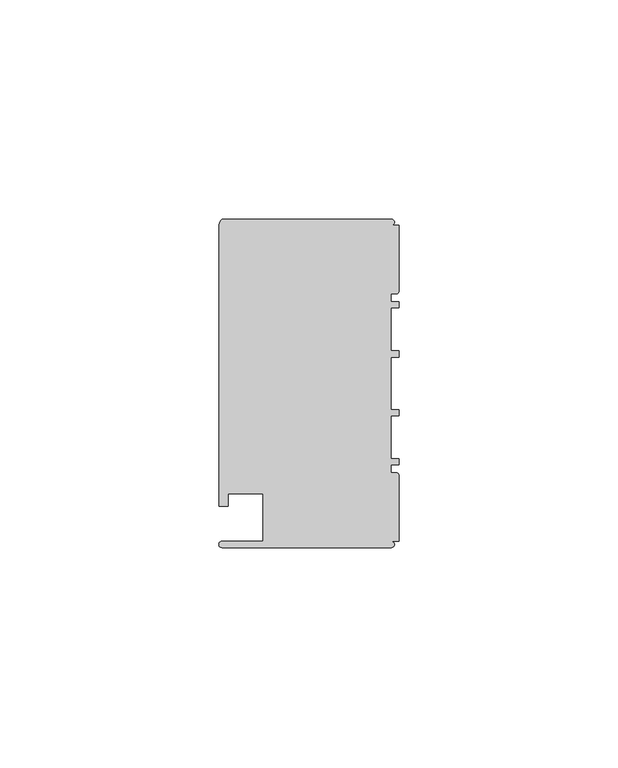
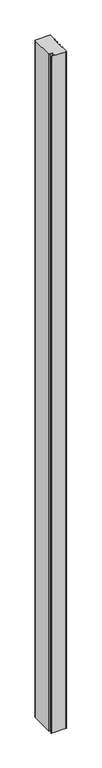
"""IFC4 building model written with IfcOpenShell, lengths in millimetres: member geometry, Прямоугольный импост : 1-AMG-1-Профиль 40Х75 Низ Л."""

from ifc_helpers import new_model, si_unit, point, frame, frame_2d, origin, place, context, project, spatial, polyline, circle_curve, trimmed, segment, composite_curve, outline, extrude, source, transform, mapped, element, save


def member_10447d67(model_context):
    return source(origin(), model_context, "Body", "SweptSolid", [
        extrude(outline(composite_curve([segment(polyline([(-1.7, -37.5), (-40.4, -37.5)]), True, "CONTINUOUS"), segment(trimmed(circle_curve(frame_2d((-40.4, -36.8)), 0.7), [point((-40.4, -37.5))], [point((-40.4, -36.1))], False, "CARTESIAN"), True, "CONTINUOUS"), segment(polyline([(-40.4, -36.1), (-31.0, -36.1), (-31.0, -25.25), (-39.0, -25.25), (-39.0, -28.1), (-41.1, -28.1), (-41.1, 35.6)]), True, "CONTINUOUS"), segment(trimmed(circle_curve(frame_2d((-38.1714286, 35.6)), 2.9285714), [point((-41.1, 35.6))], [point((-40.4, 37.5))], False, "CARTESIAN"), True, "CONTINUOUS"), segment(polyline([(-40.4, 37.5), (-1.7, 37.5)]), True, "CONTINUOUS"), segment(trimmed(circle_curve(frame_2d((-1.7, 36.8)), 0.7), [point((-1.7, 37.5))], [point((-1.7, 36.1))], False, "CARTESIAN"), True, "CONTINUOUS"), segment(polyline([(-1.7, 36.1), (0.0, 36.1), (0.0, 20.95)]), True, "CONTINUOUS"), segment(trimmed(circle_curve(frame_2d((-0.5, 20.95)), 0.5), [point((0.0, 20.95))], [point((-0.5, 20.45))], False, "CARTESIAN"), True, "CONTINUOUS"), segment(polyline([(-0.5, 20.45), (-1.8, 20.45), (-1.8, 18.65), (0.0, 18.65), (0.0, 17.25), (-1.8, 17.25), (-1.8, 7.4), (0.0, 7.4), (0.0, 6.0), (-1.8, 6.0), (-1.8, -6.0), (0.0, -6.0), (0.0, -7.4), (-1.8, -7.4), (-1.8, -17.25), (0.0, -17.25), (0.0, -18.65), (-1.8, -18.65), (-1.8, -20.45), (-0.5, -20.45)]), True, "CONTINUOUS"), segment(trimmed(circle_curve(frame_2d((-0.5, -20.95)), 0.5), [point((-0.5, -20.45))], [point((0.0, -20.95))], False, "CARTESIAN"), True, "CONTINUOUS"), segment(polyline([(0.0, -20.95), (0.0, -36.1), (-1.7, -36.1)]), True, "CONTINUOUS"), segment(trimmed(circle_curve(frame_2d((-1.7, -36.8)), 0.7), [point((-1.7, -36.1))], [point((-1.7, -37.5))], False, "CARTESIAN"), True, "CONTINUOUS")], self_intersect=False)), frame((0.0, 0.0, -1875.0), z_axis=(0.0, 0.0, 1.0), x_axis=(1.0, 0.0, 0.0)), (0.0, 0.0, 1.0), 1875.0),
    ])


if __name__ == "__main__":
    model = new_model("IFC4")
    model_context = context("Model", 3, world=origin())
    ifc_project = project(units=[si_unit("LENGTHUNIT", "METRE", prefix="MILLI")], contexts=[model_context])
    site = spatial("IfcSite", under=ifc_project)
    building = spatial("IfcBuilding", under=site)
    placement = place(None, origin())
    member_shape = member_10447d67(model_context)
    element("IfcMember", 1, ObjectType="Прямоугольный импост : 1-AMG-1-Профиль 40Х75 Низ Л", at=placement, inside=building, context=model_context, shape_type="MappedRepresentation", body=[
        mapped(member_shape, transform((0.0, 0.0, 0.0), x_axis=(1.0, 0.0, 0.0), y_axis=(0.0, 1.0, 0.0), z_axis=(0.0, 0.0, 1.0))),
    ])
    save(model, "model.ifc")
